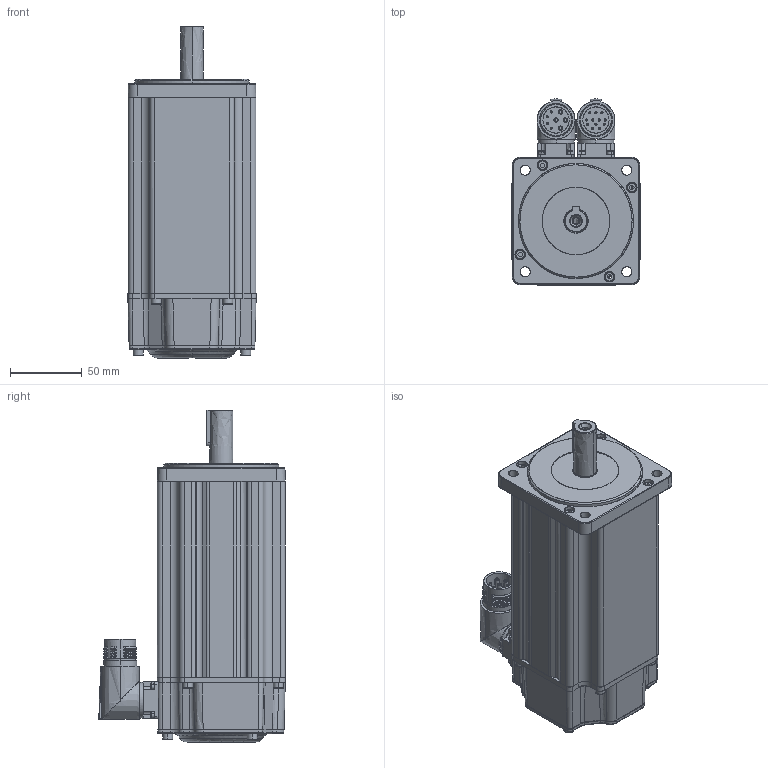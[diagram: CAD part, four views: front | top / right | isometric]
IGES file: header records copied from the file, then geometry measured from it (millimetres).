
Start section: SolidWorks IGES file using analytic representation for surfaces
Global section: file name: C:\Users\BS-Eugene\Desktop\BSM-03-3000-ZL-100.IGS; native system: SolidWorks 2019; preprocessor: SolidWorks 2019; author: BS-Eugene; date: 260918.134715; units: millimetre
Bounding box: 89.15 x 129.75 x 230.77 mm (x, y, z)
Surface area: 105903.1 mm2 (no closed solid volume)
Topology: 0 solids, 0 shells, 896 faces, 7737 edges, 7755 vertices
Faces by surface type: bspline 502, revolution 394
